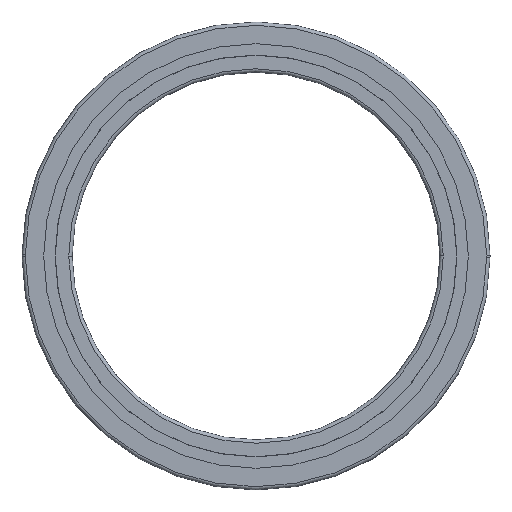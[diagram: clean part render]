
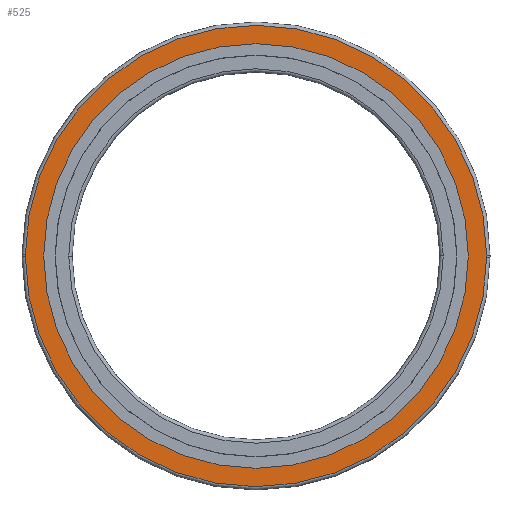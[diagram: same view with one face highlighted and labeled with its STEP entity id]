
A CAD part, front view. The second image highlights one B-rep face of the part: STEP entity #525.
In plain terms, the highlighted planar face has unit normal (0, -1, 0).
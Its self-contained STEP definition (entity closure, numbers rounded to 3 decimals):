
#399=EDGE_CURVE('',#611,#471,#950,.T.);
#471=VERTEX_POINT('',#1030);
#519=VERTEX_POINT('',#1084);
#525=ADVANCED_FACE('',(#1091,#1092),#1093,.F.);
#551=EDGE_CURVE('',#747,#769,#1122,.T.);
#611=VERTEX_POINT('',#1187);
#673=VERTEX_POINT('',#1257);
#685=EDGE_CURVE('',#769,#519,#1271,.T.);
#693=EDGE_CURVE('',#519,#673,#1279,.T.);
#737=EDGE_CURVE('',#471,#611,#1330,.T.);
#747=VERTEX_POINT('',#1341);
#769=VERTEX_POINT('',#1365);
#779=EDGE_CURVE('',#673,#747,#1375,.T.);
#950=CIRCLE('',#1572,127.0);
#1030=CARTESIAN_POINT('',(-127.0,0.0,0.0));
#1084=CARTESIAN_POINT('',(-137.997,0.0,0.853));
#1091=FACE_OUTER_BOUND('',#1744,.T.);
#1092=FACE_BOUND('',#1745,.T.);
#1093=PLANE('',#1746);
#1122=CIRCLE('',#1780,138.0);
#1187=CARTESIAN_POINT('',(127.0,0.0,0.));
#1257=CARTESIAN_POINT('',(-138.0,0.0,0.));
#1271=CIRCLE('',#1964,138.0);
#1279=CIRCLE('',#1975,138.0);
#1330=CIRCLE('',#2037,127.0);
#1341=CARTESIAN_POINT('',(137.997,0.0,-0.853));
#1365=CARTESIAN_POINT('',(138.0,0.0,0.0));
#1375=CIRCLE('',#2093,138.0);
#1572=AXIS2_PLACEMENT_3D('',#2304,#2305,#2306);
#1744=EDGE_LOOP('',(#2483,#2484,#2485,#2486));
#1745=EDGE_LOOP('',(#2487,#2488));
#1746=AXIS2_PLACEMENT_3D('',#2489,#2490,#2491);
#1780=AXIS2_PLACEMENT_3D('',#2528,#2529,#2530);
#1964=AXIS2_PLACEMENT_3D('',#2735,#2736,#2737);
#1975=AXIS2_PLACEMENT_3D('',#2744,#2745,#2746);
#2037=AXIS2_PLACEMENT_3D('',#2810,#2811,#2812);
#2093=AXIS2_PLACEMENT_3D('',#2864,#2865,#2866);
#2304=CARTESIAN_POINT('',(0.0,0.0,0.0));
#2305=DIRECTION('',(0.0,-1.0,0.0));
#2306=DIRECTION('',(1.0,0.0,0.0));
#2483=ORIENTED_EDGE('',*,*,#685,.T.);
#2484=ORIENTED_EDGE('',*,*,#693,.T.);
#2485=ORIENTED_EDGE('',*,*,#779,.T.);
#2486=ORIENTED_EDGE('',*,*,#551,.T.);
#2487=ORIENTED_EDGE('',*,*,#737,.F.);
#2488=ORIENTED_EDGE('',*,*,#399,.F.);
#2489=CARTESIAN_POINT('',(0.0,0.0,0.0));
#2490=DIRECTION('',(0.0,1.0,0.0));
#2491=DIRECTION('',(1.0,0.0,-0.0));
#2528=CARTESIAN_POINT('',(0.0,0.0,0.0));
#2529=DIRECTION('',(0.0,-1.0,0.0));
#2530=DIRECTION('',(-1.0,0.0,0.0));
#2735=CARTESIAN_POINT('',(0.0,0.0,0.0));
#2736=DIRECTION('',(0.0,-1.0,0.0));
#2737=DIRECTION('',(1.0,0.0,0.0));
#2744=CARTESIAN_POINT('',(0.0,0.0,0.0));
#2745=DIRECTION('',(0.0,-1.0,0.0));
#2746=DIRECTION('',(1.0,0.0,0.0));
#2810=CARTESIAN_POINT('',(0.0,0.0,0.0));
#2811=DIRECTION('',(0.0,-1.0,0.0));
#2812=DIRECTION('',(-1.0,0.0,0.0));
#2864=CARTESIAN_POINT('',(0.0,0.0,0.0));
#2865=DIRECTION('',(0.0,-1.0,0.0));
#2866=DIRECTION('',(-1.0,0.0,0.0));
